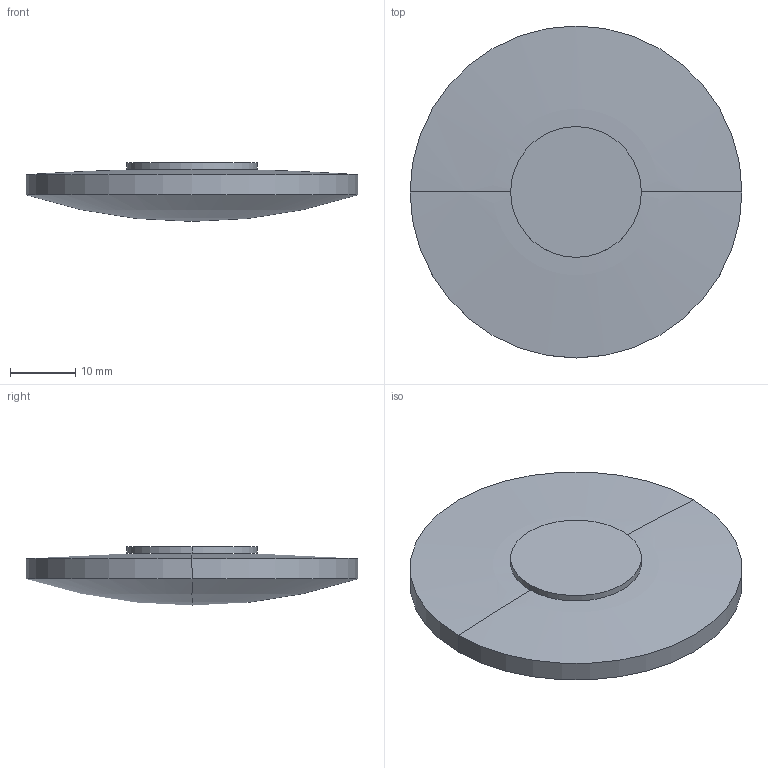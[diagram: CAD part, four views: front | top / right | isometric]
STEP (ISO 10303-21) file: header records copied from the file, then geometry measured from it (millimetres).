
FILE_DESCRIPTION(('STEP AP214'),'1');
FILE_NAME('LLQ-51150.STEP','2020-03-09T17:41:51',(' '),(' '),'Spatial InterOp 3D',' ',' ');
FILE_SCHEMA(('AUTOMOTIVE_DESIGN { 1 0 10303 214 1 1 1 1 }'));
Length unit declared in the file: millimetre
Products named in the file (1): 1
Bounding box: 50.8 x 50.8 x 9 mm (x, y, z)
Volume: 11603.3 mm3; surface area: 5294.3 mm2
Topology: 2 solids, 2 shells, 10 faces, 20 edges, 10 vertices
Faces by surface type: sphere 4, cylinder 4, plane 2
Entity records: 255 total; most frequent: DIRECTION 52, CARTESIAN_POINT 38, ORIENTED_EDGE 32, AXIS2_PLACEMENT_3D 24, EDGE_CURVE 16, CIRCLE 12, ADVANCED_FACE 10, FACE_OUTER_BOUND 10
